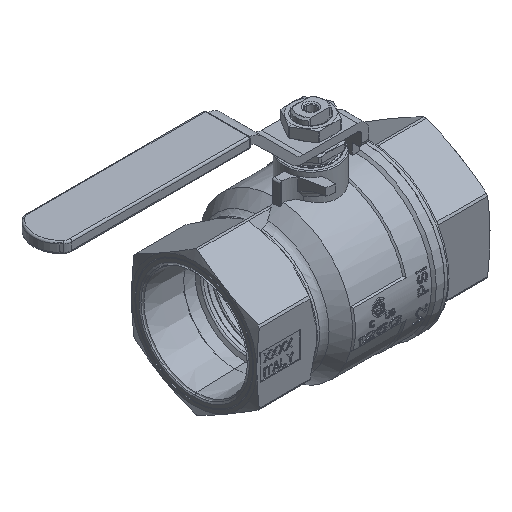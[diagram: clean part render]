
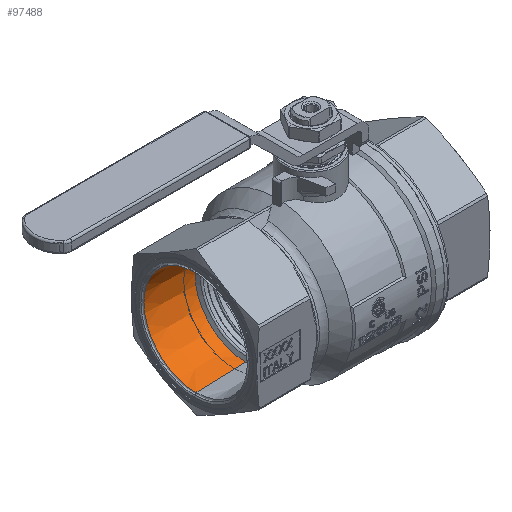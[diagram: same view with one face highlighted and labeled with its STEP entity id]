
A CAD part, isometric view. The second image highlights one B-rep face of the part: STEP entity #97488.
In plain terms, the highlighted conical face has half-angle 1.783 degrees and reference radius 27.895 mm.
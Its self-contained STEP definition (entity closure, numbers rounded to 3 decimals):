
#97287 = CONICAL_SURFACE('',#97288,26.526,1.134);
#97288 = AXIS2_PLACEMENT_3D('',#97289,#97290,#97291);
#97289 = CARTESIAN_POINT('',(-35.058,-6.419,
    -51.646));
#97290 = DIRECTION('',(-1.,0.,0.));
#97291 = DIRECTION('',(0.,0.,1.));
#97305 = EDGE_CURVE('',#97306,#97308,#97310,.T.);
#97306 = VERTEX_POINT('',#97307);
#97307 = CARTESIAN_POINT('',(-35.5,-6.419,-24.172));
#97308 = VERTEX_POINT('',#97309);
#97309 = CARTESIAN_POINT('',(-35.5,-6.419,-79.12));
#97310 = SURFACE_CURVE('',#97311,(#97316,#97323),.PCURVE_S1.);
#97311 = CIRCLE('',#97312,27.474);
#97312 = AXIS2_PLACEMENT_3D('',#97313,#97314,#97315);
#97313 = CARTESIAN_POINT('',(-35.5,-6.419,-51.646));
#97314 = DIRECTION('',(-1.,0.,0.));
#97315 = DIRECTION('',(0.,0.,1.));
#97316 = PCURVE('',#97287,#97317);
#97317 = DEFINITIONAL_REPRESENTATION('',(#97318),#97322);
#97318 = LINE('',#97319,#97320);
#97319 = CARTESIAN_POINT('',(0.,0.442));
#97320 = VECTOR('',#97321,1.);
#97321 = DIRECTION('',(1.,0.));
#97322 = ( GEOMETRIC_REPRESENTATION_CONTEXT(2) 
PARAMETRIC_REPRESENTATION_CONTEXT() REPRESENTATION_CONTEXT('2D SPACE',''
  ) );
#97323 = PCURVE('',#97324,#97329);
#97324 = CONICAL_SURFACE('',#97325,27.895,0.031);
#97325 = AXIS2_PLACEMENT_3D('',#97326,#97327,#97328);
#97326 = CARTESIAN_POINT('',(-49.,-6.419,-51.646));
#97327 = DIRECTION('',(-1.,0.,0.));
#97328 = DIRECTION('',(0.,0.,1.));
#97329 = DEFINITIONAL_REPRESENTATION('',(#97330),#97334);
#97330 = LINE('',#97331,#97332);
#97331 = CARTESIAN_POINT('',(0.,-13.5));
#97332 = VECTOR('',#97333,1.);
#97333 = DIRECTION('',(1.,0.));
#97334 = ( GEOMETRIC_REPRESENTATION_CONTEXT(2) 
PARAMETRIC_REPRESENTATION_CONTEXT() REPRESENTATION_CONTEXT('2D SPACE',''
  ) );
#97398 = CONICAL_SURFACE('',#97399,27.895,0.031);
#97399 = AXIS2_PLACEMENT_3D('',#97400,#97401,#97402);
#97400 = CARTESIAN_POINT('',(-49.,-6.419,-51.646));
#97401 = DIRECTION('',(-1.,0.,0.));
#97402 = DIRECTION('',(0.,0.,1.));
#97415 = EDGE_CURVE('',#97306,#97416,#97418,.T.);
#97416 = VERTEX_POINT('',#97417);
#97417 = CARTESIAN_POINT('',(-62.5,-6.419,-23.331));
#97418 = SURFACE_CURVE('',#97419,(#97423,#97430),.PCURVE_S1.);
#97419 = LINE('',#97420,#97421);
#97420 = CARTESIAN_POINT('',(-35.5,-6.419,-24.172));
#97421 = VECTOR('',#97422,1.);
#97422 = DIRECTION('',(-1.,0.,0.031));
#97423 = PCURVE('',#97398,#97424);
#97424 = DEFINITIONAL_REPRESENTATION('',(#97425),#97429);
#97425 = LINE('',#97426,#97427);
#97426 = CARTESIAN_POINT('',(6.283,-13.5));
#97427 = VECTOR('',#97428,1.);
#97428 = DIRECTION('',(0.,1.));
#97429 = ( GEOMETRIC_REPRESENTATION_CONTEXT(2) 
PARAMETRIC_REPRESENTATION_CONTEXT() REPRESENTATION_CONTEXT('2D SPACE',''
  ) );
#97430 = PCURVE('',#97324,#97431);
#97431 = DEFINITIONAL_REPRESENTATION('',(#97432),#97436);
#97432 = LINE('',#97433,#97434);
#97433 = CARTESIAN_POINT('',(0.,-13.5));
#97434 = VECTOR('',#97435,1.);
#97435 = DIRECTION('',(0.,1.));
#97436 = ( GEOMETRIC_REPRESENTATION_CONTEXT(2) 
PARAMETRIC_REPRESENTATION_CONTEXT() REPRESENTATION_CONTEXT('2D SPACE',''
  ) );
#97439 = VERTEX_POINT('',#97440);
#97440 = CARTESIAN_POINT('',(-62.5,-6.419,-79.961));
#97467 = EDGE_CURVE('',#97308,#97439,#97468,.T.);
#97468 = SURFACE_CURVE('',#97469,(#97473,#97480),.PCURVE_S1.);
#97469 = LINE('',#97470,#97471);
#97470 = CARTESIAN_POINT('',(-35.5,-6.419,-79.12));
#97471 = VECTOR('',#97472,1.);
#97472 = DIRECTION('',(-1.,0.,-0.031));
#97473 = PCURVE('',#97398,#97474);
#97474 = DEFINITIONAL_REPRESENTATION('',(#97475),#97479);
#97475 = LINE('',#97476,#97477);
#97476 = CARTESIAN_POINT('',(3.142,-13.5));
#97477 = VECTOR('',#97478,1.);
#97478 = DIRECTION('',(0.,1.));
#97479 = ( GEOMETRIC_REPRESENTATION_CONTEXT(2) 
PARAMETRIC_REPRESENTATION_CONTEXT() REPRESENTATION_CONTEXT('2D SPACE',''
  ) );
#97480 = PCURVE('',#97324,#97481);
#97481 = DEFINITIONAL_REPRESENTATION('',(#97482),#97486);
#97482 = LINE('',#97483,#97484);
#97483 = CARTESIAN_POINT('',(3.142,-13.5));
#97484 = VECTOR('',#97485,1.);
#97485 = DIRECTION('',(0.,1.));
#97486 = ( GEOMETRIC_REPRESENTATION_CONTEXT(2) 
PARAMETRIC_REPRESENTATION_CONTEXT() REPRESENTATION_CONTEXT('2D SPACE',''
  ) );
#97488 = ADVANCED_FACE('',(#97489),#97324,.F.);
#97489 = FACE_BOUND('',#97490,.T.);
#97490 = EDGE_LOOP('',(#97491,#97518,#97519,#97520));
#97491 = ORIENTED_EDGE('',*,*,#97492,.T.);
#97492 = EDGE_CURVE('',#97416,#97439,#97493,.T.);
#97493 = SURFACE_CURVE('',#97494,(#97499,#97506),.PCURVE_S1.);
#97494 = CIRCLE('',#97495,28.315);
#97495 = AXIS2_PLACEMENT_3D('',#97496,#97497,#97498);
#97496 = CARTESIAN_POINT('',(-62.5,-6.419,-51.646));
#97497 = DIRECTION('',(-1.,0.,0.));
#97498 = DIRECTION('',(0.,0.,1.));
#97499 = PCURVE('',#97324,#97500);
#97500 = DEFINITIONAL_REPRESENTATION('',(#97501),#97505);
#97501 = LINE('',#97502,#97503);
#97502 = CARTESIAN_POINT('',(0.,13.5));
#97503 = VECTOR('',#97504,1.);
#97504 = DIRECTION('',(1.,0.));
#97505 = ( GEOMETRIC_REPRESENTATION_CONTEXT(2) 
PARAMETRIC_REPRESENTATION_CONTEXT() REPRESENTATION_CONTEXT('2D SPACE',''
  ) );
#97506 = PCURVE('',#97507,#97512);
#97507 = CONICAL_SURFACE('',#97508,29.181,1.047);
#97508 = AXIS2_PLACEMENT_3D('',#97509,#97510,#97511);
#97509 = CARTESIAN_POINT('',(-63.,-6.419,-51.646));
#97510 = DIRECTION('',(-1.,0.,0.));
#97511 = DIRECTION('',(0.,0.,1.));
#97512 = DEFINITIONAL_REPRESENTATION('',(#97513),#97517);
#97513 = LINE('',#97514,#97515);
#97514 = CARTESIAN_POINT('',(0.,-0.5));
#97515 = VECTOR('',#97516,1.);
#97516 = DIRECTION('',(1.,0.));
#97517 = ( GEOMETRIC_REPRESENTATION_CONTEXT(2) 
PARAMETRIC_REPRESENTATION_CONTEXT() REPRESENTATION_CONTEXT('2D SPACE',''
  ) );
#97518 = ORIENTED_EDGE('',*,*,#97467,.F.);
#97519 = ORIENTED_EDGE('',*,*,#97305,.F.);
#97520 = ORIENTED_EDGE('',*,*,#97415,.T.);
